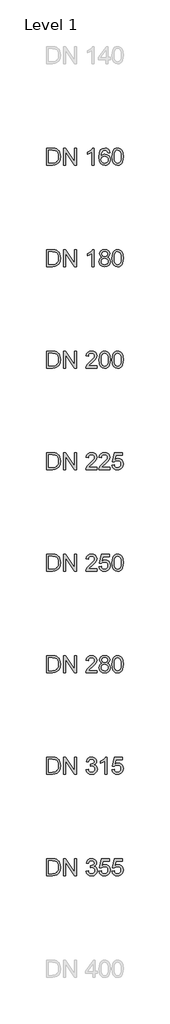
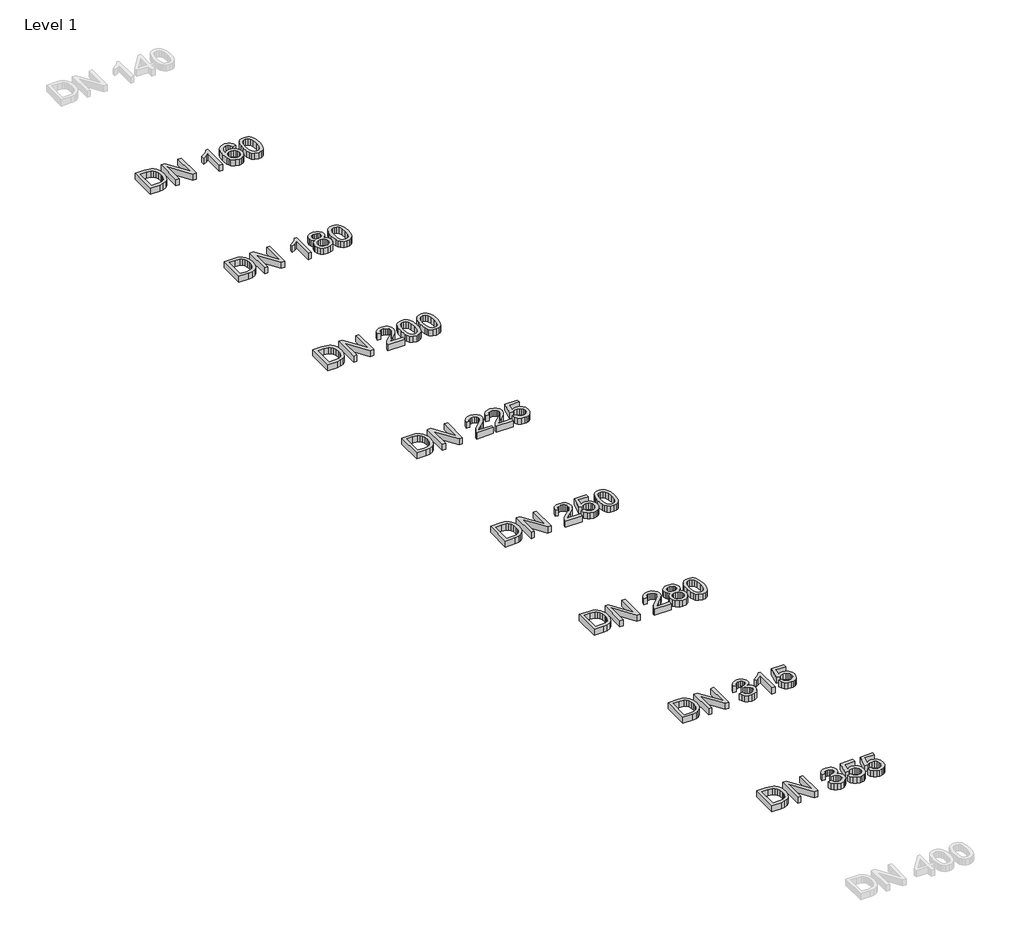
# One storey, part 4 of 26: 8 proxies.
"""IFC4 building model written with IfcOpenShell, lengths in millimetres."""

from ifc_helpers import new_model, si_unit, origin, origin_with_axes, place, context, project, spatial, polyline, outline, extrude, element, save

model = new_model("IFC4")

# Units and contexts
model_context = context("Model", 3, world=origin())
ifc_project = project(units=[si_unit("LENGTHUNIT", "METRE", prefix="MILLI")], contexts=[model_context])

# Site, building, storey
site = spatial("IfcSite", under=ifc_project)
building = spatial("IfcBuilding", under=site)
storey = spatial("IfcBuildingStorey", under=building, Name="Level 1", Elevation=0.0)

# Proxies
placement = place(None, origin())
element("IfcBuildingElementProxy", 1, Name="200mm Arial", ObjectType="200mm Arial", at=placement, inside=storey, context=model_context, shape_type="SweptSolid", body=[
    extrude(outline(polyline([(-9460.6923074, -98213.949573), (-9460.6923074, -98013.0369527), (-9391.3833395, -98013.0369527), (-9355.5271077, -98015.9309577), (-9339.5119782, -98021.5105013), (-9325.9984462, -98030.302881), (-9312.1047695, -98045.606772), (-9302.2087438, -98064.6385338), (-9296.2858437, -98087.0302846), (-9294.3115437, -98112.4141423), (-9299.6580953, -98152.9547382), (-9313.3923565, -98182.2136195), (-9331.7374053, -98200.436041), (-9355.7478369, -98210.5160077), (-9388.0478761, -98213.949573), (-9460.6923074, -98213.949573)]), holes=[polyline([(-9435.5782298, -98188.8354954), (-9391.1380848, -98188.8354954), (-9358.8135202, -98185.2057264), (-9340.1741658, -98174.9540815), (-9331.4492311, -98164.0831685), (-9324.8948002, -98150.0116822), (-9320.792916, -98132.6783089), (-9319.4256212, -98112.0217348), (-9322.1050284, -98084.6513144), (-9330.14325, -98064.4423301), (-9342.0197071, -98050.5609162), (-9356.2138207, -98042.1732067), (-9391.8247979, -98038.1510302), (-9435.5782298, -98038.1510302), (-9435.5782298, -98188.8354954)])]), origin_with_axes(), (0.0, 0.0, 1.0), 50.0),
    extrude(outline(polyline([(-9259.7796871, -98213.949573), (-9259.7796871, -98013.0369527), (-9232.899776, -98013.0369527), (-9127.93078, -98172.2072292), (-9127.93078, -98013.0369527), (-9102.8167025, -98013.0369527), (-9102.8167025, -98213.949573), (-9129.6966136, -98213.949573), (-9234.6656095, -98054.7302454), (-9234.6656095, -98213.949573), (-9259.7796871, -98213.949573)])), origin_with_axes(), (0.0, 0.0, 1.0), 50.0),
    extrude(outline(polyline([(-8895.6255628, -98213.949573), (-8920.7396403, -98213.949573), (-8920.7396403, -98057.3789958), (-8944.5293427, -98074.3260931), (-8970.9677954, -98087.0057592), (-8970.9677954, -98063.2651077), (-8934.1550704, -98039.769711), (-8920.684458, -98026.1948653), (-8911.8123706, -98013.0369527), (-8895.6255628, -98013.0369527), (-8895.6255628, -98213.949573)])), origin_with_axes(), (0.0, 0.0, 1.0), 50.0),
    extrude(outline(polyline([(-8707.2699812, -98066.4043674), (-8732.3840588, -98069.5436271), (-8741.8999397, -98048.5988789), (-8753.2920188, -98040.7629924), (-8767.0630682, -98038.1510302), (-8789.7245991, -98044.2333458), (-8799.1607723, -98053.8411973), (-8806.8679001, -98067.066555), (-8812.0734303, -98085.7733545), (-8814.0048108, -98111.8255311), (-8803.9309755, -98100.0717013), (-8791.8583147, -98091.7882251), (-8778.4612787, -98086.8770005), (-8764.4143178, -98085.2399256), (-8741.2132267, -98089.7158232), (-8721.7400064, -98103.143516), (-8708.5330428, -98123.6590686), (-8704.1307216, -98149.3985455), (-8706.2031235, -98167.3818437), (-8712.4203292, -98184.0530295), (-8722.2673039, -98198.1919608), (-8735.2290129, -98208.5784958), (-8750.7168449, -98214.9612484), (-8768.1421887, -98217.0888326), (-8796.6346492, -98211.4479754), (-8819.326837, -98194.5254036), (-8827.9858594, -98181.4165418), (-8834.1708755, -98164.6533856), (-8839.1188883, -98120.1641897), (-8833.6251839, -98070.144501), (-8826.7580533, -98051.0667539), (-8817.1440705, -98035.9437382), (-8806.723813, -98025.9220195), (-8794.6419551, -98018.763649), (-8765.4934384, -98013.0369527), (-8743.4573068, -98016.5808825), (-8725.8112338, -98027.2126722), (-8713.4503988, -98044.0984558), (-8707.2699812, -98066.4043674)]), holes=[polyline([(-8814.0048108, -98149.0061381), (-8808.1922753, -98170.7602267), (-8792.7412315, -98186.554627), (-8770.104226, -98191.9747551), (-8753.5311421, -98189.1665892), (-8740.5019881, -98180.7420915), (-8732.0590964, -98167.4983397), (-8729.2447991, -98150.2324114), (-8732.0223082, -98133.6593275), (-8740.3548353, -98121.022581), (-8753.6047185, -98113.0211476), (-8771.1342956, -98110.3540031), (-8787.682854, -98113.0211476), (-8801.5213484, -98121.022581), (-8810.8839452, -98133.3527592), (-8814.0048108, -98149.0061381)])]), origin_with_axes(), (0.0, 0.0, 1.0), 50.0),
    extrude(outline(polyline([(-8682.1559037, -98115.1119436), (-8680.3103624, -98082.9529258), (-8674.7737383, -98057.3054194), (-8665.6012139, -98037.7770168), (-8652.8479714, -98023.9753106), (-8636.4220403, -98015.7715422), (-8616.2314502, -98013.0369527), (-8600.7558809, -98014.6556334), (-8586.8989924, -98019.5116758), (-8575.3107096, -98027.4150073), (-8566.6409572, -98038.1755557), (-8554.8687334, -98067.9004209), (-8550.3069966, -98115.1119436), (-8552.1341439, -98147.0870203), (-8557.6155856, -98172.6732131), (-8566.7329277, -98192.2200098), (-8579.4677761, -98206.0768983), (-8595.9304954, -98214.335849), (-8616.2314502, -98217.0888326), (-8642.3265464, -98212.3063667), (-8662.1431232, -98197.9589689), (-8670.8987147, -98182.8298218), (-8677.1527086, -98163.9789353), (-8682.1559037, -98115.1119436)]), holes=[polyline([(-8657.0418262, -98115.0628927), (-8654.0987702, -98154.5672876), (-8645.2696023, -98177.4311536), (-8632.1239524, -98188.3388547), (-8616.2314502, -98191.9747551), (-8600.338948, -98188.326592), (-8587.193298, -98177.3821026), (-8578.3641301, -98154.5059739), (-8575.4210742, -98115.0628927), (-8578.2660283, -98076.4475459), (-8586.8008906, -98053.4058703), (-8599.9220151, -98041.9647402), (-8616.5257558, -98038.1510302), (-8632.2465797, -98041.5110191), (-8644.8771949, -98051.5909857), (-8654.0006683, -98076.0674012), (-8657.0418262, -98115.0628927)])]), origin_with_axes(), (0.0, 0.0, 1.0), 50.0),
])
element("IfcBuildingElementProxy", 2, Name="200mm Arial", ObjectType="200mm Arial", at=placement, inside=storey, context=model_context, shape_type="SweptSolid", body=[
    extrude(outline(polyline([(-9460.6923074, -100613.949573), (-9460.6923074, -100413.0369527), (-9391.3833395, -100413.0369527), (-9355.5271077, -100415.9309577), (-9339.5119782, -100421.5105013), (-9325.9984462, -100430.302881), (-9312.1047695, -100445.606772), (-9302.2087438, -100464.6385338), (-9296.2858437, -100487.0302846), (-9294.3115437, -100512.4141423), (-9299.6580953, -100552.9547382), (-9313.3923565, -100582.2136195), (-9331.7374053, -100600.436041), (-9355.7478369, -100610.5160077), (-9388.0478761, -100613.949573), (-9460.6923074, -100613.949573)]), holes=[polyline([(-9435.5782298, -100588.8354954), (-9391.1380848, -100588.8354954), (-9358.8135202, -100585.2057264), (-9340.1741658, -100574.9540815), (-9331.4492311, -100564.0831685), (-9324.8948002, -100550.0116822), (-9320.792916, -100532.6783089), (-9319.4256212, -100512.0217348), (-9322.1050284, -100484.6513144), (-9330.14325, -100464.4423301), (-9342.0197071, -100450.5609162), (-9356.2138207, -100442.1732067), (-9391.8247979, -100438.1510302), (-9435.5782298, -100438.1510302), (-9435.5782298, -100588.8354954)])]), origin_with_axes(), (0.0, 0.0, 1.0), 50.0),
    extrude(outline(polyline([(-9259.7796871, -100613.949573), (-9259.7796871, -100413.0369527), (-9232.899776, -100413.0369527), (-9127.93078, -100572.2072292), (-9127.93078, -100413.0369527), (-9102.8167025, -100413.0369527), (-9102.8167025, -100613.949573), (-9129.6966136, -100613.949573), (-9234.6656095, -100454.7302454), (-9234.6656095, -100613.949573), (-9259.7796871, -100613.949573)])), origin_with_axes(), (0.0, 0.0, 1.0), 50.0),
    extrude(outline(polyline([(-8861.0937062, -100588.8354954), (-8861.0937062, -100613.949573), (-8992.9426132, -100613.949573), (-8990.2448119, -100596.6345937), (-8974.9899719, -100569.9754118), (-8943.548324, -100540.8636832), (-8900.1872995, -100499.0232377), (-8892.0571074, -100484.6022634), (-8889.3470434, -100470.5736967), (-8891.9038233, -100457.9982638), (-8899.5741629, -100447.5442838), (-8911.3647808, -100440.4993436), (-8926.2823957, -100438.1510302), (-8941.9480373, -100440.4441613), (-8954.1188, -100447.3235546), (-8961.9730806, -100458.2496499), (-8964.689276, -100472.6828868), (-8989.8033535, -100469.5436271), (-8983.7149065, -100445.2511527), (-8970.5508625, -100427.5069778), (-8950.9979344, -100416.6544589), (-8925.7428355, -100413.0369527), (-8900.3037955, -100417.0591291), (-8880.7876556, -100429.1256586), (-8868.3716383, -100447.1518763), (-8864.2329659, -100469.0531178), (-8868.6966007, -100492.8673456), (-8883.5345079, -100517.4909138), (-8919.513367, -100551.9001431), (-8948.4043664, -100576.0577275), (-8959.7351318, -100588.8354954), (-8861.0937062, -100588.8354954)])), origin_with_axes(), (0.0, 0.0, 1.0), 50.0),
    extrude(outline(polyline([(-8835.9796286, -100515.1119436), (-8834.1340873, -100482.9529258), (-8828.5974633, -100457.3054194), (-8819.4249388, -100437.7770168), (-8806.6716963, -100423.9753106), (-8790.2457653, -100415.7715422), (-8770.0551751, -100413.0369527), (-8754.5796058, -100414.6556334), (-8740.7227173, -100419.5116758), (-8729.1344345, -100427.4150073), (-8720.4646821, -100438.1755557), (-8708.6924583, -100467.9004209), (-8704.1307216, -100515.1119436), (-8705.9578688, -100547.0870203), (-8711.4393105, -100572.6732131), (-8720.5566526, -100592.2200098), (-8733.291501, -100606.0768983), (-8749.7542203, -100614.335849), (-8770.0551751, -100617.0888326), (-8796.1502713, -100612.3063667), (-8815.9668481, -100597.9589689), (-8824.7224396, -100582.8298218), (-8830.9764335, -100563.9789353), (-8835.9796286, -100515.1119436)]), holes=[polyline([(-8810.8655511, -100515.0628927), (-8807.9224951, -100554.5672876), (-8799.0933272, -100577.4311536), (-8785.9476773, -100588.3388547), (-8770.0551751, -100591.9747551), (-8754.1626729, -100588.326592), (-8741.0170229, -100577.3821026), (-8732.1878551, -100554.5059739), (-8729.2447991, -100515.0628927), (-8732.0897532, -100476.4475459), (-8740.6246155, -100453.4058703), (-8753.74574, -100441.9647402), (-8770.3494807, -100438.1510302), (-8786.0703046, -100441.5110191), (-8798.7009198, -100451.5909857), (-8807.8243933, -100476.0674012), (-8810.8655511, -100515.0628927)])]), origin_with_axes(), (0.0, 0.0, 1.0), 50.0),
    extrude(outline(polyline([(-8682.1559037, -100515.1119436), (-8680.3103624, -100482.9529258), (-8674.7737383, -100457.3054194), (-8665.6012139, -100437.7770168), (-8652.8479714, -100423.9753106), (-8636.4220403, -100415.7715422), (-8616.2314502, -100413.0369527), (-8600.7558809, -100414.6556334), (-8586.8989924, -100419.5116758), (-8575.3107096, -100427.4150073), (-8566.6409572, -100438.1755557), (-8554.8687334, -100467.9004209), (-8550.3069966, -100515.1119436), (-8552.1341439, -100547.0870203), (-8557.6155856, -100572.6732131), (-8566.7329277, -100592.2200098), (-8579.4677761, -100606.0768983), (-8595.9304954, -100614.335849), (-8616.2314502, -100617.0888326), (-8642.3265464, -100612.3063667), (-8662.1431232, -100597.9589689), (-8670.8987147, -100582.8298218), (-8677.1527086, -100563.9789353), (-8682.1559037, -100515.1119436)]), holes=[polyline([(-8657.0418262, -100515.0628927), (-8654.0987702, -100554.5672876), (-8645.2696023, -100577.4311536), (-8632.1239524, -100588.3388547), (-8616.2314502, -100591.9747551), (-8600.338948, -100588.326592), (-8587.193298, -100577.3821026), (-8578.3641301, -100554.5059739), (-8575.4210742, -100515.0628927), (-8578.2660283, -100476.4475459), (-8586.8008906, -100453.4058703), (-8599.9220151, -100441.9647402), (-8616.5257558, -100438.1510302), (-8632.2465797, -100441.5110191), (-8644.8771949, -100451.5909857), (-8654.0006683, -100476.0674012), (-8657.0418262, -100515.0628927)])]), origin_with_axes(), (0.0, 0.0, 1.0), 50.0),
])
element("IfcBuildingElementProxy", 3, Name="200mm Arial", ObjectType="200mm Arial", at=placement, inside=storey, context=model_context, shape_type="SweptSolid", body=[
    extrude(outline(polyline([(-9460.6923074, -103013.949573), (-9460.6923074, -102813.0369527), (-9391.3833395, -102813.0369527), (-9355.5271077, -102815.9309577), (-9339.5119782, -102821.5105013), (-9325.9984462, -102830.302881), (-9312.1047695, -102845.606772), (-9302.2087438, -102864.6385338), (-9296.2858437, -102887.0302846), (-9294.3115437, -102912.4141423), (-9299.6580953, -102952.9547382), (-9313.3923565, -102982.2136195), (-9331.7374053, -103000.436041), (-9355.7478369, -103010.5160077), (-9388.0478761, -103013.949573), (-9460.6923074, -103013.949573)]), holes=[polyline([(-9435.5782298, -102988.8354954), (-9391.1380848, -102988.8354954), (-9358.8135202, -102985.2057264), (-9340.1741658, -102974.9540815), (-9331.4492311, -102964.0831685), (-9324.8948002, -102950.0116822), (-9320.792916, -102932.6783089), (-9319.4256212, -102912.0217348), (-9322.1050284, -102884.6513144), (-9330.14325, -102864.4423301), (-9342.0197071, -102850.5609162), (-9356.2138207, -102842.1732067), (-9391.8247979, -102838.1510302), (-9435.5782298, -102838.1510302), (-9435.5782298, -102988.8354954)])]), origin_with_axes(), (0.0, 0.0, 1.0), 50.0),
    extrude(outline(polyline([(-9259.7796871, -103013.949573), (-9259.7796871, -102813.0369527), (-9232.899776, -102813.0369527), (-9127.93078, -102972.2072292), (-9127.93078, -102813.0369527), (-9102.8167025, -102813.0369527), (-9102.8167025, -103013.949573), (-9129.6966136, -103013.949573), (-9234.6656095, -102854.7302454), (-9234.6656095, -103013.949573), (-9259.7796871, -103013.949573)])), origin_with_axes(), (0.0, 0.0, 1.0), 50.0),
    extrude(outline(polyline([(-8861.0937062, -102988.8354954), (-8861.0937062, -103013.949573), (-8992.9426132, -103013.949573), (-8990.2448119, -102996.6345937), (-8974.9899719, -102969.9754118), (-8943.548324, -102940.8636832), (-8900.1872995, -102899.0232377), (-8892.0571074, -102884.6022634), (-8889.3470434, -102870.5736967), (-8891.9038233, -102857.9982638), (-8899.5741629, -102847.5442838), (-8911.3647808, -102840.4993436), (-8926.2823957, -102838.1510302), (-8941.9480373, -102840.4441613), (-8954.1188, -102847.3235546), (-8961.9730806, -102858.2496499), (-8964.689276, -102872.6828868), (-8989.8033535, -102869.5436271), (-8983.7149065, -102845.2511527), (-8970.5508625, -102827.5069778), (-8950.9979344, -102816.6544589), (-8925.7428355, -102813.0369527), (-8900.3037955, -102817.0591291), (-8880.7876556, -102829.1256586), (-8868.3716383, -102847.1518763), (-8864.2329659, -102869.0531178), (-8868.6966007, -102892.8673456), (-8883.5345079, -102917.4909138), (-8919.513367, -102951.9001431), (-8948.4043664, -102976.0577275), (-8959.7351318, -102988.8354954), (-8861.0937062, -102988.8354954)])), origin_with_axes(), (0.0, 0.0, 1.0), 50.0),
    extrude(outline(polyline([(-8835.9796286, -102960.5821582), (-8810.8655511, -102957.4428985), (-8806.2547634, -102972.5199289), (-8798.2104105, -102983.3172655), (-8786.7692804, -102989.8103827), (-8771.9681615, -102991.9747551), (-8753.9664692, -102988.9642541), (-8740.4774627, -102979.9327511), (-8732.052965, -102965.9225785), (-8729.2447991, -102947.9760685), (-8731.8751554, -102931.0780222), (-8739.7662242, -102918.1531014), (-8752.9793191, -102909.9493329), (-8771.575754, -102907.2147434), (-8793.6241483, -102911.5802764), (-8807.7262914, -102922.9110419), (-8832.8403689, -102919.7717822), (-8810.8655511, -102816.1762123), (-8713.5485006, -102816.1762123), (-8713.5485006, -102841.2902899), (-8790.558465, -102841.2902899), (-8801.3006192, -102896.619742), (-8783.3602406, -102885.7304349), (-8764.5614706, -102882.1006659), (-8741.0967307, -102886.601089), (-8721.6173791, -102900.1023582), (-8708.5023859, -102920.6792244), (-8704.1307216, -102946.4064386), (-8708.0670589, -102971.5205162), (-8719.876071, -102993.0048247), (-8730.3116569, -103003.5415782), (-8742.4885509, -103011.0678307), (-8756.4067531, -103015.5835821), (-8772.0662633, -103017.0888326), (-8796.7327511, -103013.2199403), (-8816.383781, -103001.6132634), (-8829.8543934, -102983.6177025), (-8835.9796286, -102960.5821582)])), origin_with_axes(), (0.0, 0.0, 1.0), 50.0),
    extrude(outline(polyline([(-8682.1559037, -102915.1119436), (-8680.3103624, -102882.9529258), (-8674.7737383, -102857.3054194), (-8665.6012139, -102837.7770168), (-8652.8479714, -102823.9753106), (-8636.4220403, -102815.7715422), (-8616.2314502, -102813.0369527), (-8600.7558809, -102814.6556334), (-8586.8989924, -102819.5116758), (-8575.3107096, -102827.4150073), (-8566.6409572, -102838.1755557), (-8554.8687334, -102867.9004209), (-8550.3069966, -102915.1119436), (-8552.1341439, -102947.0870203), (-8557.6155856, -102972.6732131), (-8566.7329277, -102992.2200098), (-8579.4677761, -103006.0768983), (-8595.9304954, -103014.335849), (-8616.2314502, -103017.0888326), (-8642.3265464, -103012.3063667), (-8662.1431232, -102997.9589689), (-8670.8987147, -102982.8298218), (-8677.1527086, -102963.9789353), (-8682.1559037, -102915.1119436)]), holes=[polyline([(-8657.0418262, -102915.0628927), (-8654.0987702, -102954.5672876), (-8645.2696023, -102977.4311536), (-8632.1239524, -102988.3388547), (-8616.2314502, -102991.9747551), (-8600.338948, -102988.326592), (-8587.193298, -102977.3821026), (-8578.3641301, -102954.5059739), (-8575.4210742, -102915.0628927), (-8578.2660283, -102876.4475459), (-8586.8008906, -102853.4058703), (-8599.9220151, -102841.9647402), (-8616.5257558, -102838.1510302), (-8632.2465797, -102841.5110191), (-8644.8771949, -102851.5909857), (-8654.0006683, -102876.0674012), (-8657.0418262, -102915.0628927)])]), origin_with_axes(), (0.0, 0.0, 1.0), 50.0),
])
element("IfcBuildingElementProxy", 4, Name="200mm Arial", ObjectType="200mm Arial", at=placement, inside=storey, context=model_context, shape_type="SweptSolid", body=[
    extrude(outline(polyline([(-9460.6923074, -105413.949573), (-9460.6923074, -105213.0369527), (-9391.3833395, -105213.0369527), (-9355.5271077, -105215.9309577), (-9339.5119782, -105221.5105013), (-9325.9984462, -105230.302881), (-9312.1047695, -105245.606772), (-9302.2087438, -105264.6385338), (-9296.2858437, -105287.0302846), (-9294.3115437, -105312.4141423), (-9299.6580953, -105352.9547382), (-9313.3923565, -105382.2136195), (-9331.7374053, -105400.436041), (-9355.7478369, -105410.5160077), (-9388.0478761, -105413.949573), (-9460.6923074, -105413.949573)]), holes=[polyline([(-9435.5782298, -105388.8354954), (-9391.1380848, -105388.8354954), (-9358.8135202, -105385.2057264), (-9340.1741658, -105374.9540815), (-9331.4492311, -105364.0831685), (-9324.8948002, -105350.0116822), (-9320.792916, -105332.6783089), (-9319.4256212, -105312.0217348), (-9322.1050284, -105284.6513144), (-9330.14325, -105264.4423301), (-9342.0197071, -105250.5609162), (-9356.2138207, -105242.1732067), (-9391.8247979, -105238.1510302), (-9435.5782298, -105238.1510302), (-9435.5782298, -105388.8354954)])]), origin_with_axes(), (0.0, 0.0, 1.0), 50.0),
    extrude(outline(polyline([(-9259.7796871, -105413.949573), (-9259.7796871, -105213.0369527), (-9232.899776, -105213.0369527), (-9127.93078, -105372.2072292), (-9127.93078, -105213.0369527), (-9102.8167025, -105213.0369527), (-9102.8167025, -105413.949573), (-9129.6966136, -105413.949573), (-9234.6656095, -105254.7302454), (-9234.6656095, -105413.949573), (-9259.7796871, -105413.949573)])), origin_with_axes(), (0.0, 0.0, 1.0), 50.0),
    extrude(outline(polyline([(-8989.8033535, -105360.5821582), (-8964.689276, -105357.4428985), (-8959.0668128, -105373.2250361), (-8950.8323875, -105383.8813512), (-8939.5813298, -105389.9514041), (-8924.9089696, -105391.9747551), (-8907.6920922, -105389.1911147), (-8894.3992895, -105380.8401934), (-8885.9012154, -105368.3812565), (-8883.068524, -105353.2735692), (-8885.8766899, -105338.9323028), (-8894.3011876, -105327.3011004), (-8907.0544301, -105319.5939726), (-8922.8488304, -105317.02493), (-8940.4581153, -105319.7717822), (-8937.6622121, -105294.6577047), (-8933.6400356, -105294.9520102), (-8918.593662, -105293.1493885), (-8905.1414437, -105287.7415231), (-8895.6500882, -105278.5935242), (-8892.4863031, -105265.5705016), (-8894.7794342, -105254.7241141), (-8901.6588275, -105245.925603), (-8912.1557271, -105240.0946734), (-8925.3013771, -105238.1510302), (-8938.4715525, -105240.1130675), (-8949.2382322, -105245.9991794), (-8957.0986442, -105255.809366), (-8961.5500163, -105269.5436271), (-8986.6640939, -105266.4043674), (-8979.2696657, -105243.8532011), (-8966.1117531, -105227.0164685), (-8948.1100608, -105216.5318316), (-8926.1842938, -105213.0369527), (-8910.3960249, -105214.7598667), (-8895.8953429, -105219.9286087), (-8883.6693979, -105228.0833263), (-8874.70534, -105238.7641669), (-8869.2055042, -105251.0698196), (-8867.3722255, -105264.0989736), (-8869.1135337, -105276.2390794), (-8874.337458, -105287.2510138), (-8882.9704221, -105296.6320047), (-8894.9388497, -105303.87928), (-8879.2180258, -105310.2313758), (-8867.5684293, -105321.0471064), (-8860.3579422, -105335.7378608), (-8857.9544465, -105353.7150276), (-8862.7614379, -105378.191443), (-8877.1824121, -105398.645682), (-8898.9487635, -105412.478045), (-8925.7918864, -105417.0888326), (-8950.0720981, -105413.1524953), (-8969.8396239, -105401.3434833), (-8983.5861478, -105383.2804773), (-8989.8033535, -105360.5821582)])), origin_with_axes(), (0.0, 0.0, 1.0), 50.0),
    extrude(outline(polyline([(-8741.8018379, -105413.949573), (-8766.9159154, -105413.949573), (-8766.9159154, -105257.3789958), (-8790.7056178, -105274.3260931), (-8817.1440705, -105287.0057592), (-8817.1440705, -105263.2651077), (-8780.3313455, -105239.769711), (-8766.8607331, -105226.1948653), (-8757.9886457, -105213.0369527), (-8741.8018379, -105213.0369527), (-8741.8018379, -105413.949573)])), origin_with_axes(), (0.0, 0.0, 1.0), 50.0),
    extrude(outline(polyline([(-8682.1559037, -105360.5821582), (-8657.0418262, -105357.4428985), (-8652.4310385, -105372.5199289), (-8644.3866855, -105383.3172655), (-8632.9455555, -105389.8103827), (-8618.1444366, -105391.9747551), (-8600.1427443, -105388.9642541), (-8586.6537378, -105379.9327511), (-8578.2292401, -105365.9225785), (-8575.4210742, -105347.9760685), (-8578.0514304, -105331.0780222), (-8585.9424992, -105318.1531014), (-8599.1555942, -105309.9493329), (-8617.7520291, -105307.2147434), (-8639.8004233, -105311.5802764), (-8653.9025665, -105322.9110419), (-8679.016644, -105319.7717822), (-8657.0418262, -105216.1762123), (-8559.7247757, -105216.1762123), (-8559.7247757, -105241.2902899), (-8636.73474, -105241.2902899), (-8647.4768943, -105296.619742), (-8629.5365157, -105285.7304349), (-8610.7377457, -105282.1006659), (-8587.2730058, -105286.601089), (-8567.7936541, -105300.1023582), (-8554.678661, -105320.6792244), (-8550.3069966, -105346.4064386), (-8554.243334, -105371.5205162), (-8566.052346, -105393.0048247), (-8576.487932, -105403.5415782), (-8588.664826, -105411.0678307), (-8602.5830282, -105415.5835821), (-8618.2425384, -105417.0888326), (-8642.9090262, -105413.2199403), (-8662.5600561, -105401.6132634), (-8676.0306685, -105383.6177025), (-8682.1559037, -105360.5821582)])), origin_with_axes(), (0.0, 0.0, 1.0), 50.0),
])
element("IfcBuildingElementProxy", 5, Name="200mm Arial", ObjectType="200mm Arial", at=placement, inside=storey, context=model_context, shape_type="SweptSolid", body=[
    extrude(outline(polyline([(-9460.6923074, -99413.949573), (-9460.6923074, -99213.0369527), (-9391.3833395, -99213.0369527), (-9355.5271077, -99215.9309577), (-9339.5119782, -99221.5105013), (-9325.9984462, -99230.302881), (-9312.1047695, -99245.606772), (-9302.2087438, -99264.6385338), (-9296.2858437, -99287.0302846), (-9294.3115437, -99312.4141423), (-9299.6580953, -99352.9547382), (-9313.3923565, -99382.2136195), (-9331.7374053, -99400.436041), (-9355.7478369, -99410.5160077), (-9388.0478761, -99413.949573), (-9460.6923074, -99413.949573)]), holes=[polyline([(-9435.5782298, -99388.8354954), (-9391.1380848, -99388.8354954), (-9358.8135202, -99385.2057264), (-9340.1741658, -99374.9540815), (-9331.4492311, -99364.0831685), (-9324.8948002, -99350.0116822), (-9320.792916, -99332.6783089), (-9319.4256212, -99312.0217348), (-9322.1050284, -99284.6513144), (-9330.14325, -99264.4423301), (-9342.0197071, -99250.5609162), (-9356.2138207, -99242.1732067), (-9391.8247979, -99238.1510302), (-9435.5782298, -99238.1510302), (-9435.5782298, -99388.8354954)])]), origin_with_axes(), (0.0, 0.0, 1.0), 50.0),
    extrude(outline(polyline([(-9259.7796871, -99413.949573), (-9259.7796871, -99213.0369527), (-9232.899776, -99213.0369527), (-9127.93078, -99372.2072292), (-9127.93078, -99213.0369527), (-9102.8167025, -99213.0369527), (-9102.8167025, -99413.949573), (-9129.6966136, -99413.949573), (-9234.6656095, -99254.7302454), (-9234.6656095, -99413.949573), (-9259.7796871, -99413.949573)])), origin_with_axes(), (0.0, 0.0, 1.0), 50.0),
    extrude(outline(polyline([(-8895.6255628, -99413.949573), (-8920.7396403, -99413.949573), (-8920.7396403, -99257.3789958), (-8944.5293427, -99274.3260931), (-8970.9677954, -99287.0057592), (-8970.9677954, -99263.2651077), (-8934.1550704, -99239.769711), (-8920.684458, -99226.1948653), (-8911.8123706, -99213.0369527), (-8895.6255628, -99213.0369527), (-8895.6255628, -99413.949573)])), origin_with_axes(), (0.0, 0.0, 1.0), 50.0),
    extrude(outline(polyline([(-8799.3876328, -99303.2906688), (-8812.8337198, -99296.6687929), (-8822.2698929, -99287.6924722), (-8827.8433052, -99276.5456478), (-8829.7011092, -99263.4122605), (-8825.6544073, -99243.7796247), (-8813.5143015, -99227.5560287), (-8794.6419551, -99216.6667217), (-8770.3985316, -99213.0369527), (-8746.0079553, -99216.7525608), (-8726.8903543, -99227.8993853), (-8714.5295193, -99244.3804986), (-8710.4092409, -99264.0989736), (-8712.2425196, -99276.8092965), (-8717.7423554, -99287.7660486), (-8726.9700621, -99296.687187), (-8739.9869534, -99303.2906688), (-8724.5297782, -99311.255314), (-8713.2787205, -99322.9846183), (-8706.4177213, -99337.9144959), (-8704.1307216, -99355.4808612), (-8708.6679328, -99379.4912927), (-8722.2795667, -99399.332395), (-8743.2978913, -99412.6497232), (-8770.0551751, -99417.0888326), (-8796.8124589, -99412.6313291), (-8817.8307835, -99399.2588186), (-8831.4424174, -99379.227644), (-8835.9796286, -99354.7941481), (-8833.6006584, -99336.5472012), (-8826.4637477, -99321.5376158), (-8814.9367785, -99310.2804267), (-8799.3876328, -99303.2906688)]), holes=[polyline([(-8804.5870317, -99264.1480245), (-8802.3613456, -99275.110908), (-8795.6842874, -99283.8664995), (-8784.7520608, -99289.6054586), (-8769.7608695, -99291.518445), (-8755.1191661, -99289.6177213), (-8744.3524864, -99283.9155504), (-8737.7306104, -99275.4542645), (-8735.5233185, -99265.276196), (-8737.8041868, -99254.7118513), (-8744.646792, -99245.974654), (-8755.5606245, -99240.1069361), (-8770.0551751, -99238.1510302), (-8784.6416962, -99240.0640166), (-8795.5371346, -99245.8029757), (-8802.3245574, -99254.2152106), (-8804.5870317, -99264.1480245)]), polyline([(-8810.8655511, -99353.9112313), (-8806.6716963, -99372.8203659), (-8800.8652922, -99380.9321639), (-8791.8337892, -99386.97156), (-8769.8589714, -99391.9747551), (-8752.7647213, -99389.3443988), (-8739.9379024, -99381.45333), (-8731.9180749, -99369.5032966), (-8729.2447991, -99354.6960463), (-8732.0039141, -99339.6374099), (-8740.2812589, -99327.4237277), (-8753.4023834, -99319.3303238), (-8770.6928372, -99316.6325225), (-8787.547964, -99319.2935356), (-8800.2460242, -99327.2765749), (-8808.2106694, -99339.2572652), (-8810.8655511, -99353.9112313)])]), origin_with_axes(), (0.0, 0.0, 1.0), 50.0),
    extrude(outline(polyline([(-8682.1559037, -99315.1119436), (-8680.3103624, -99282.9529258), (-8674.7737383, -99257.3054194), (-8665.6012139, -99237.7770168), (-8652.8479714, -99223.9753106), (-8636.4220403, -99215.7715422), (-8616.2314502, -99213.0369527), (-8600.7558809, -99214.6556334), (-8586.8989924, -99219.5116758), (-8575.3107096, -99227.4150073), (-8566.6409572, -99238.1755557), (-8554.8687334, -99267.9004209), (-8550.3069966, -99315.1119436), (-8552.1341439, -99347.0870203), (-8557.6155856, -99372.6732131), (-8566.7329277, -99392.2200098), (-8579.4677761, -99406.0768983), (-8595.9304954, -99414.335849), (-8616.2314502, -99417.0888326), (-8642.3265464, -99412.3063667), (-8662.1431232, -99397.9589689), (-8670.8987147, -99382.8298218), (-8677.1527086, -99363.9789353), (-8682.1559037, -99315.1119436)]), holes=[polyline([(-8657.0418262, -99315.0628927), (-8654.0987702, -99354.5672876), (-8645.2696023, -99377.4311536), (-8632.1239524, -99388.3388547), (-8616.2314502, -99391.9747551), (-8600.338948, -99388.326592), (-8587.193298, -99377.3821026), (-8578.3641301, -99354.5059739), (-8575.4210742, -99315.0628927), (-8578.2660283, -99276.4475459), (-8586.8008906, -99253.4058703), (-8599.9220151, -99241.9647402), (-8616.5257558, -99238.1510302), (-8632.2465797, -99241.5110191), (-8644.8771949, -99251.5909857), (-8654.0006683, -99276.0674012), (-8657.0418262, -99315.0628927)])]), origin_with_axes(), (0.0, 0.0, 1.0), 50.0),
])
element("IfcBuildingElementProxy", 6, Name="200mm Arial", ObjectType="200mm Arial", at=placement, inside=storey, context=model_context, shape_type="SweptSolid", body=[
    extrude(outline(polyline([(-9460.6923074, -101813.949573), (-9460.6923074, -101613.0369527), (-9391.3833395, -101613.0369527), (-9355.5271077, -101615.9309577), (-9339.5119782, -101621.5105013), (-9325.9984462, -101630.302881), (-9312.1047695, -101645.606772), (-9302.2087438, -101664.6385338), (-9296.2858437, -101687.0302846), (-9294.3115437, -101712.4141423), (-9299.6580953, -101752.9547382), (-9313.3923565, -101782.2136195), (-9331.7374053, -101800.436041), (-9355.7478369, -101810.5160077), (-9388.0478761, -101813.949573), (-9460.6923074, -101813.949573)]), holes=[polyline([(-9435.5782298, -101788.8354954), (-9391.1380848, -101788.8354954), (-9358.8135202, -101785.2057264), (-9340.1741658, -101774.9540815), (-9331.4492311, -101764.0831685), (-9324.8948002, -101750.0116822), (-9320.792916, -101732.6783089), (-9319.4256212, -101712.0217348), (-9322.1050284, -101684.6513144), (-9330.14325, -101664.4423301), (-9342.0197071, -101650.5609162), (-9356.2138207, -101642.1732067), (-9391.8247979, -101638.1510302), (-9435.5782298, -101638.1510302), (-9435.5782298, -101788.8354954)])]), origin_with_axes(), (0.0, 0.0, 1.0), 50.0),
    extrude(outline(polyline([(-9259.7796871, -101813.949573), (-9259.7796871, -101613.0369527), (-9232.899776, -101613.0369527), (-9127.93078, -101772.2072292), (-9127.93078, -101613.0369527), (-9102.8167025, -101613.0369527), (-9102.8167025, -101813.949573), (-9129.6966136, -101813.949573), (-9234.6656095, -101654.7302454), (-9234.6656095, -101813.949573), (-9259.7796871, -101813.949573)])), origin_with_axes(), (0.0, 0.0, 1.0), 50.0),
    extrude(outline(polyline([(-8861.0937062, -101788.8354954), (-8861.0937062, -101813.949573), (-8992.9426132, -101813.949573), (-8990.2448119, -101796.6345937), (-8974.9899719, -101769.9754118), (-8943.548324, -101740.8636832), (-8900.1872995, -101699.0232377), (-8892.0571074, -101684.6022634), (-8889.3470434, -101670.5736967), (-8891.9038233, -101657.9982638), (-8899.5741629, -101647.5442838), (-8911.3647808, -101640.4993436), (-8926.2823957, -101638.1510302), (-8941.9480373, -101640.4441613), (-8954.1188, -101647.3235546), (-8961.9730806, -101658.2496499), (-8964.689276, -101672.6828868), (-8989.8033535, -101669.5436271), (-8983.7149065, -101645.2511527), (-8970.5508625, -101627.5069778), (-8950.9979344, -101616.6544589), (-8925.7428355, -101613.0369527), (-8900.3037955, -101617.0591291), (-8880.7876556, -101629.1256586), (-8868.3716383, -101647.1518763), (-8864.2329659, -101669.0531178), (-8868.6966007, -101692.8673456), (-8883.5345079, -101717.4909138), (-8919.513367, -101751.9001431), (-8948.4043664, -101776.0577275), (-8959.7351318, -101788.8354954), (-8861.0937062, -101788.8354954)])), origin_with_axes(), (0.0, 0.0, 1.0), 50.0),
    extrude(outline(polyline([(-8707.2699812, -101788.8354954), (-8707.2699812, -101813.949573), (-8839.1188883, -101813.949573), (-8836.421087, -101796.6345937), (-8821.166247, -101769.9754118), (-8789.7245991, -101740.8636832), (-8746.3635746, -101699.0232377), (-8738.2333825, -101684.6022634), (-8735.5233185, -101670.5736967), (-8738.0800983, -101657.9982638), (-8745.7504379, -101647.5442838), (-8757.5410559, -101640.4993436), (-8772.4586708, -101638.1510302), (-8788.1243124, -101640.4441613), (-8800.2950751, -101647.3235546), (-8808.1493557, -101658.2496499), (-8810.8655511, -101672.6828868), (-8835.9796286, -101669.5436271), (-8829.8911816, -101645.2511527), (-8816.7271375, -101627.5069778), (-8797.1742095, -101616.6544589), (-8771.9191105, -101613.0369527), (-8746.4800706, -101617.0591291), (-8726.9639307, -101629.1256586), (-8714.5479134, -101647.1518763), (-8710.4092409, -101669.0531178), (-8714.8728758, -101692.8673456), (-8729.710783, -101717.4909138), (-8765.6896421, -101751.9001431), (-8794.5806414, -101776.0577275), (-8805.9114069, -101788.8354954), (-8707.2699812, -101788.8354954)])), origin_with_axes(), (0.0, 0.0, 1.0), 50.0),
    extrude(outline(polyline([(-8682.1559037, -101760.5821582), (-8657.0418262, -101757.4428985), (-8652.4310385, -101772.5199289), (-8644.3866855, -101783.3172655), (-8632.9455555, -101789.8103827), (-8618.1444366, -101791.9747551), (-8600.1427443, -101788.9642541), (-8586.6537378, -101779.9327511), (-8578.2292401, -101765.9225785), (-8575.4210742, -101747.9760685), (-8578.0514304, -101731.0780222), (-8585.9424992, -101718.1531014), (-8599.1555942, -101709.9493329), (-8617.7520291, -101707.2147434), (-8639.8004233, -101711.5802764), (-8653.9025665, -101722.9110419), (-8679.016644, -101719.7717822), (-8657.0418262, -101616.1762123), (-8559.7247757, -101616.1762123), (-8559.7247757, -101641.2902899), (-8636.73474, -101641.2902899), (-8647.4768943, -101696.619742), (-8629.5365157, -101685.7304349), (-8610.7377457, -101682.1006659), (-8587.2730058, -101686.601089), (-8567.7936541, -101700.1023582), (-8554.678661, -101720.6792244), (-8550.3069966, -101746.4064386), (-8554.243334, -101771.5205162), (-8566.052346, -101793.0048247), (-8576.487932, -101803.5415782), (-8588.664826, -101811.0678307), (-8602.5830282, -101815.5835821), (-8618.2425384, -101817.0888326), (-8642.9090262, -101813.2199403), (-8662.5600561, -101801.6132634), (-8676.0306685, -101783.6177025), (-8682.1559037, -101760.5821582)])), origin_with_axes(), (0.0, 0.0, 1.0), 50.0),
])
element("IfcBuildingElementProxy", 7, Name="200mm Arial", ObjectType="200mm Arial", at=placement, inside=storey, context=model_context, shape_type="SweptSolid", body=[
    extrude(outline(polyline([(-9460.6923074, -104213.949573), (-9460.6923074, -104013.0369527), (-9391.3833395, -104013.0369527), (-9355.5271077, -104015.9309577), (-9339.5119782, -104021.5105013), (-9325.9984462, -104030.302881), (-9312.1047695, -104045.606772), (-9302.2087438, -104064.6385338), (-9296.2858437, -104087.0302846), (-9294.3115437, -104112.4141423), (-9299.6580953, -104152.9547382), (-9313.3923565, -104182.2136195), (-9331.7374053, -104200.436041), (-9355.7478369, -104210.5160077), (-9388.0478761, -104213.949573), (-9460.6923074, -104213.949573)]), holes=[polyline([(-9435.5782298, -104188.8354954), (-9391.1380848, -104188.8354954), (-9358.8135202, -104185.2057264), (-9340.1741658, -104174.9540815), (-9331.4492311, -104164.0831685), (-9324.8948002, -104150.0116822), (-9320.792916, -104132.6783089), (-9319.4256212, -104112.0217348), (-9322.1050284, -104084.6513144), (-9330.14325, -104064.4423301), (-9342.0197071, -104050.5609162), (-9356.2138207, -104042.1732067), (-9391.8247979, -104038.1510302), (-9435.5782298, -104038.1510302), (-9435.5782298, -104188.8354954)])]), origin_with_axes(), (0.0, 0.0, 1.0), 50.0),
    extrude(outline(polyline([(-9259.7796871, -104213.949573), (-9259.7796871, -104013.0369527), (-9232.899776, -104013.0369527), (-9127.93078, -104172.2072292), (-9127.93078, -104013.0369527), (-9102.8167025, -104013.0369527), (-9102.8167025, -104213.949573), (-9129.6966136, -104213.949573), (-9234.6656095, -104054.7302454), (-9234.6656095, -104213.949573), (-9259.7796871, -104213.949573)])), origin_with_axes(), (0.0, 0.0, 1.0), 50.0),
    extrude(outline(polyline([(-8861.0937062, -104188.8354954), (-8861.0937062, -104213.949573), (-8992.9426132, -104213.949573), (-8990.2448119, -104196.6345937), (-8974.9899719, -104169.9754118), (-8943.548324, -104140.8636832), (-8900.1872995, -104099.0232377), (-8892.0571074, -104084.6022634), (-8889.3470434, -104070.5736967), (-8891.9038233, -104057.9982638), (-8899.5741629, -104047.5442838), (-8911.3647808, -104040.4993436), (-8926.2823957, -104038.1510302), (-8941.9480373, -104040.4441613), (-8954.1188, -104047.3235546), (-8961.9730806, -104058.2496499), (-8964.689276, -104072.6828868), (-8989.8033535, -104069.5436271), (-8983.7149065, -104045.2511527), (-8970.5508625, -104027.5069778), (-8950.9979344, -104016.6544589), (-8925.7428355, -104013.0369527), (-8900.3037955, -104017.0591291), (-8880.7876556, -104029.1256586), (-8868.3716383, -104047.1518763), (-8864.2329659, -104069.0531178), (-8868.6966007, -104092.8673456), (-8883.5345079, -104117.4909138), (-8919.513367, -104151.9001431), (-8948.4043664, -104176.0577275), (-8959.7351318, -104188.8354954), (-8861.0937062, -104188.8354954)])), origin_with_axes(), (0.0, 0.0, 1.0), 50.0),
    extrude(outline(polyline([(-8799.3876328, -104103.2906688), (-8812.8337198, -104096.6687929), (-8822.2698929, -104087.6924722), (-8827.8433052, -104076.5456478), (-8829.7011092, -104063.4122605), (-8825.6544073, -104043.7796247), (-8813.5143015, -104027.5560287), (-8794.6419551, -104016.6667217), (-8770.3985316, -104013.0369527), (-8746.0079553, -104016.7525608), (-8726.8903543, -104027.8993853), (-8714.5295193, -104044.3804986), (-8710.4092409, -104064.0989736), (-8712.2425196, -104076.8092965), (-8717.7423554, -104087.7660486), (-8726.9700621, -104096.687187), (-8739.9869534, -104103.2906688), (-8724.5297782, -104111.255314), (-8713.2787205, -104122.9846183), (-8706.4177213, -104137.9144959), (-8704.1307216, -104155.4808612), (-8708.6679328, -104179.4912927), (-8722.2795667, -104199.332395), (-8743.2978913, -104212.6497232), (-8770.0551751, -104217.0888326), (-8796.8124589, -104212.6313291), (-8817.8307835, -104199.2588186), (-8831.4424174, -104179.227644), (-8835.9796286, -104154.7941481), (-8833.6006584, -104136.5472012), (-8826.4637477, -104121.5376158), (-8814.9367785, -104110.2804267), (-8799.3876328, -104103.2906688)]), holes=[polyline([(-8810.8655511, -104153.9112313), (-8806.6716963, -104172.8203659), (-8800.8652922, -104180.9321639), (-8791.8337892, -104186.97156), (-8769.8589714, -104191.9747551), (-8752.7647213, -104189.3443988), (-8739.9379024, -104181.45333), (-8731.9180749, -104169.5032966), (-8729.2447991, -104154.6960463), (-8732.0039141, -104139.6374099), (-8740.2812589, -104127.4237277), (-8753.4023834, -104119.3303238), (-8770.6928372, -104116.6325225), (-8787.547964, -104119.2935356), (-8800.2460242, -104127.2765749), (-8808.2106694, -104139.2572652), (-8810.8655511, -104153.9112313)]), polyline([(-8804.5870317, -104064.1480245), (-8802.3613456, -104075.110908), (-8795.6842874, -104083.8664995), (-8784.7520608, -104089.6054586), (-8769.7608695, -104091.518445), (-8755.1191661, -104089.6177213), (-8744.3524864, -104083.9155504), (-8737.7306104, -104075.4542645), (-8735.5233185, -104065.276196), (-8737.8041868, -104054.7118513), (-8744.646792, -104045.974654), (-8755.5606245, -104040.1069361), (-8770.0551751, -104038.1510302), (-8784.6416962, -104040.0640166), (-8795.5371346, -104045.8029757), (-8802.3245574, -104054.2152106), (-8804.5870317, -104064.1480245)])]), origin_with_axes(), (0.0, 0.0, 1.0), 50.0),
    extrude(outline(polyline([(-8682.1559037, -104115.1119436), (-8680.3103624, -104082.9529258), (-8674.7737383, -104057.3054194), (-8665.6012139, -104037.7770168), (-8652.8479714, -104023.9753106), (-8636.4220403, -104015.7715422), (-8616.2314502, -104013.0369527), (-8600.7558809, -104014.6556334), (-8586.8989924, -104019.5116758), (-8575.3107096, -104027.4150073), (-8566.6409572, -104038.1755557), (-8554.8687334, -104067.9004209), (-8550.3069966, -104115.1119436), (-8552.1341439, -104147.0870203), (-8557.6155856, -104172.6732131), (-8566.7329277, -104192.2200098), (-8579.4677761, -104206.0768983), (-8595.9304954, -104214.335849), (-8616.2314502, -104217.0888326), (-8642.3265464, -104212.3063667), (-8662.1431232, -104197.9589689), (-8670.8987147, -104182.8298218), (-8677.1527086, -104163.9789353), (-8682.1559037, -104115.1119436)]), holes=[polyline([(-8657.0418262, -104115.0628927), (-8654.0987702, -104154.5672876), (-8645.2696023, -104177.4311536), (-8632.1239524, -104188.3388547), (-8616.2314502, -104191.9747551), (-8600.338948, -104188.326592), (-8587.193298, -104177.3821026), (-8578.3641301, -104154.5059739), (-8575.4210742, -104115.0628927), (-8578.2660283, -104076.4475459), (-8586.8008906, -104053.4058703), (-8599.9220151, -104041.9647402), (-8616.5257558, -104038.1510302), (-8632.2465797, -104041.5110191), (-8644.8771949, -104051.5909857), (-8654.0006683, -104076.0674012), (-8657.0418262, -104115.0628927)])]), origin_with_axes(), (0.0, 0.0, 1.0), 50.0),
])
element("IfcBuildingElementProxy", 8, Name="200mm Arial", ObjectType="200mm Arial", at=placement, inside=storey, context=model_context, shape_type="SweptSolid", body=[
    extrude(outline(polyline([(-9460.6923074, -106613.949573), (-9460.6923074, -106413.0369527), (-9391.3833395, -106413.0369527), (-9355.5271077, -106415.9309577), (-9339.5119782, -106421.5105013), (-9325.9984462, -106430.302881), (-9312.1047695, -106445.606772), (-9302.2087438, -106464.6385338), (-9296.2858437, -106487.0302846), (-9294.3115437, -106512.4141423), (-9299.6580953, -106552.9547382), (-9313.3923565, -106582.2136195), (-9331.7374053, -106600.436041), (-9355.7478369, -106610.5160077), (-9388.0478761, -106613.949573), (-9460.6923074, -106613.949573)]), holes=[polyline([(-9435.5782298, -106588.8354954), (-9391.1380848, -106588.8354954), (-9358.8135202, -106585.2057264), (-9340.1741658, -106574.9540815), (-9331.4492311, -106564.0831685), (-9324.8948002, -106550.0116822), (-9320.792916, -106532.6783089), (-9319.4256212, -106512.0217348), (-9322.1050284, -106484.6513144), (-9330.14325, -106464.4423301), (-9342.0197071, -106450.5609162), (-9356.2138207, -106442.1732067), (-9391.8247979, -106438.1510302), (-9435.5782298, -106438.1510302), (-9435.5782298, -106588.8354954)])]), origin_with_axes(), (0.0, 0.0, 1.0), 50.0),
    extrude(outline(polyline([(-9259.7796871, -106613.949573), (-9259.7796871, -106413.0369527), (-9232.899776, -106413.0369527), (-9127.93078, -106572.2072292), (-9127.93078, -106413.0369527), (-9102.8167025, -106413.0369527), (-9102.8167025, -106613.949573), (-9129.6966136, -106613.949573), (-9234.6656095, -106454.7302454), (-9234.6656095, -106613.949573), (-9259.7796871, -106613.949573)])), origin_with_axes(), (0.0, 0.0, 1.0), 50.0),
    extrude(outline(polyline([(-8989.8033535, -106560.5821582), (-8964.689276, -106557.4428985), (-8959.0668128, -106573.2250361), (-8950.8323875, -106583.8813512), (-8939.5813298, -106589.9514041), (-8924.9089696, -106591.9747551), (-8907.6920922, -106589.1911147), (-8894.3992895, -106580.8401934), (-8885.9012154, -106568.3812565), (-8883.068524, -106553.2735692), (-8885.8766899, -106538.9323028), (-8894.3011876, -106527.3011004), (-8907.0544301, -106519.5939726), (-8922.8488304, -106517.02493), (-8940.4581153, -106519.7717822), (-8937.6622121, -106494.6577047), (-8933.6400356, -106494.9520102), (-8918.593662, -106493.1493885), (-8905.1414437, -106487.7415231), (-8895.6500882, -106478.5935242), (-8892.4863031, -106465.5705016), (-8894.7794342, -106454.7241141), (-8901.6588275, -106445.925603), (-8912.1557271, -106440.0946734), (-8925.3013771, -106438.1510302), (-8938.4715525, -106440.1130675), (-8949.2382322, -106445.9991794), (-8957.0986442, -106455.809366), (-8961.5500163, -106469.5436271), (-8986.6640939, -106466.4043674), (-8979.2696657, -106443.8532011), (-8966.1117531, -106427.0164685), (-8948.1100608, -106416.5318316), (-8926.1842938, -106413.0369527), (-8910.3960249, -106414.7598667), (-8895.8953429, -106419.9286087), (-8883.6693979, -106428.0833263), (-8874.70534, -106438.7641669), (-8869.2055042, -106451.0698196), (-8867.3722255, -106464.0989736), (-8869.1135337, -106476.2390794), (-8874.337458, -106487.2510138), (-8882.9704221, -106496.6320047), (-8894.9388497, -106503.87928), (-8879.2180258, -106510.2313758), (-8867.5684293, -106521.0471064), (-8860.3579422, -106535.7378608), (-8857.9544465, -106553.7150276), (-8862.7614379, -106578.191443), (-8877.1824121, -106598.645682), (-8898.9487635, -106612.478045), (-8925.7918864, -106617.0888326), (-8950.0720981, -106613.1524953), (-8969.8396239, -106601.3434833), (-8983.5861478, -106583.2804773), (-8989.8033535, -106560.5821582)])), origin_with_axes(), (0.0, 0.0, 1.0), 50.0),
    extrude(outline(polyline([(-8835.9796286, -106560.5821582), (-8810.8655511, -106557.4428985), (-8806.2547634, -106572.5199289), (-8798.2104105, -106583.3172655), (-8786.7692804, -106589.8103827), (-8771.9681615, -106591.9747551), (-8753.9664692, -106588.9642541), (-8740.4774627, -106579.9327511), (-8732.052965, -106565.9225785), (-8729.2447991, -106547.9760685), (-8731.8751554, -106531.0780222), (-8739.7662242, -106518.1531014), (-8752.9793191, -106509.9493329), (-8771.575754, -106507.2147434), (-8793.6241483, -106511.5802764), (-8807.7262914, -106522.9110419), (-8832.8403689, -106519.7717822), (-8810.8655511, -106416.1762123), (-8713.5485006, -106416.1762123), (-8713.5485006, -106441.2902899), (-8790.558465, -106441.2902899), (-8801.3006192, -106496.619742), (-8783.3602406, -106485.7304349), (-8764.5614706, -106482.1006659), (-8741.0967307, -106486.601089), (-8721.6173791, -106500.1023582), (-8708.5023859, -106520.6792244), (-8704.1307216, -106546.4064386), (-8708.0670589, -106571.5205162), (-8719.876071, -106593.0048247), (-8730.3116569, -106603.5415782), (-8742.4885509, -106611.0678307), (-8756.4067531, -106615.5835821), (-8772.0662633, -106617.0888326), (-8796.7327511, -106613.2199403), (-8816.383781, -106601.6132634), (-8829.8543934, -106583.6177025), (-8835.9796286, -106560.5821582)])), origin_with_axes(), (0.0, 0.0, 1.0), 50.0),
    extrude(outline(polyline([(-8682.1559037, -106560.5821582), (-8657.0418262, -106557.4428985), (-8652.4310385, -106572.5199289), (-8644.3866855, -106583.3172655), (-8632.9455555, -106589.8103827), (-8618.1444366, -106591.9747551), (-8600.1427443, -106588.9642541), (-8586.6537378, -106579.9327511), (-8578.2292401, -106565.9225785), (-8575.4210742, -106547.9760685), (-8578.0514304, -106531.0780222), (-8585.9424992, -106518.1531014), (-8599.1555942, -106509.9493329), (-8617.7520291, -106507.2147434), (-8639.8004233, -106511.5802764), (-8653.9025665, -106522.9110419), (-8679.016644, -106519.7717822), (-8657.0418262, -106416.1762123), (-8559.7247757, -106416.1762123), (-8559.7247757, -106441.2902899), (-8636.73474, -106441.2902899), (-8647.4768943, -106496.619742), (-8629.5365157, -106485.7304349), (-8610.7377457, -106482.1006659), (-8587.2730058, -106486.601089), (-8567.7936541, -106500.1023582), (-8554.678661, -106520.6792244), (-8550.3069966, -106546.4064386), (-8554.243334, -106571.5205162), (-8566.052346, -106593.0048247), (-8576.487932, -106603.5415782), (-8588.664826, -106611.0678307), (-8602.5830282, -106615.5835821), (-8618.2425384, -106617.0888326), (-8642.9090262, -106613.2199403), (-8662.5600561, -106601.6132634), (-8676.0306685, -106583.6177025), (-8682.1559037, -106560.5821582)])), origin_with_axes(), (0.0, 0.0, 1.0), 50.0),
])

save(model, "model.ifc")
